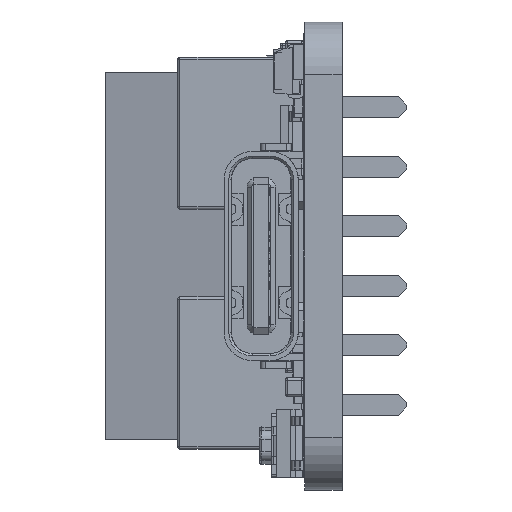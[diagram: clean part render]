
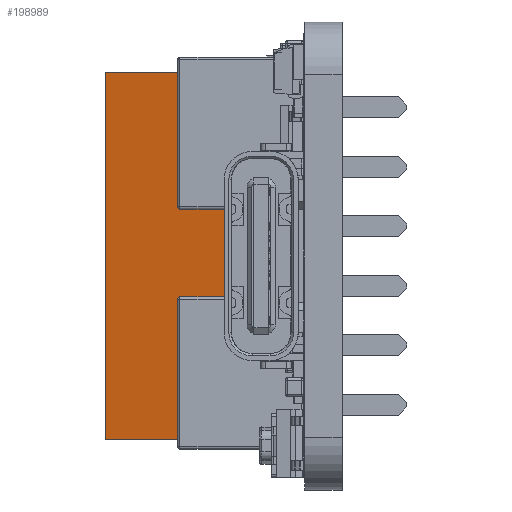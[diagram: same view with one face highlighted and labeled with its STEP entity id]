
A CAD part, left-side view. The second image highlights one B-rep face of the part: STEP entity #198989.
In plain terms, the highlighted planar face has unit normal (-0.977, 0.213, 0) as drawn and (0.977, 0.213, 0) by its records, which use the part's own axes.
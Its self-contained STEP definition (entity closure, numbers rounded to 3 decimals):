
#30223 = AXIS2_PLACEMENT_3D ( 'NONE', #104433, #104370, #104364 ) ;
#34016 = FACE_OUTER_BOUND ( 'NONE', #212586, .T. ) ;
#63438 = EDGE_CURVE ( 'NONE', #162132, #162088, #79973, .T. ) ;
#63502 = EDGE_CURVE ( 'NONE', #162089, #162088, #80064, .T. ) ;
#63543 = EDGE_CURVE ( 'NONE', #162104, #162089, #80057, .T. ) ;
#63582 = EDGE_CURVE ( 'NONE', #162132, #162104, #80082, .T. ) ;
#74562 = CARTESIAN_POINT ( 'NONE',  ( 1.9, 8.5, 5.08 ) ) ;
#74621 = DIRECTION ( 'NONE',  ( 0., 0., 1. ) ) ;
#74695 = CARTESIAN_POINT ( 'NONE',  ( 3.1, 3., 7.85 ) ) ;
#74762 = DIRECTION ( 'NONE',  ( -0.213, 0.977, 0. ) ) ;
#74860 = CARTESIAN_POINT ( 'NONE',  ( 3.1, 3., 5.08 ) ) ;
#74937 = DIRECTION ( 'NONE',  ( 0., 0., 1. ) ) ;
#75150 = DIRECTION ( 'NONE',  ( 0.213, -0.977, 0. ) ) ;
#75172 = CARTESIAN_POINT ( 'NONE',  ( 1.9, 8.5, -7.85 ) ) ;
#79973 = LINE ( 'NONE', #74562, #79978 ) ;
#79978 = VECTOR ( 'NONE', #74621, 1000. ) ;
#80053 = VECTOR ( 'NONE', #74762, 1000. ) ;
#80057 = LINE ( 'NONE', #74860, #80058 ) ;
#80058 = VECTOR ( 'NONE', #74937, 1000. ) ;
#80064 = LINE ( 'NONE', #74695, #80053 ) ;
#80082 = LINE ( 'NONE', #75172, #80100 ) ;
#80100 = VECTOR ( 'NONE', #75150, 1000. ) ;
#104364 = DIRECTION ( 'NONE',  ( -0.213, 0.977, 0. ) ) ;
#104370 = DIRECTION ( 'NONE',  ( 0.977, 0.213, 0. ) ) ;
#104433 = CARTESIAN_POINT ( 'NONE',  ( 3.1, 3., 5.08 ) ) ;
#104441 = PLANE ( 'NONE',  #30223 ) ;
#126383 = ORIENTED_EDGE ( 'NONE', *, *, #63543, .F. ) ;
#126394 = ORIENTED_EDGE ( 'NONE', *, *, #63438, .T. ) ;
#126422 = ORIENTED_EDGE ( 'NONE', *, *, #63502, .F. ) ;
#126610 = ORIENTED_EDGE ( 'NONE', *, *, #63582, .F. ) ;
#162088 = VERTEX_POINT ( 'NONE', #210531 ) ;
#162089 = VERTEX_POINT ( 'NONE', #210536 ) ;
#162104 = VERTEX_POINT ( 'NONE', #210563 ) ;
#162132 = VERTEX_POINT ( 'NONE', #210580 ) ;
#198989 = ADVANCED_FACE ( 'NONE', ( #34016 ), #104441, .T. ) ;
#210531 = CARTESIAN_POINT ( 'NONE',  ( 1.9, 8.5, 7.85 ) ) ;
#210536 = CARTESIAN_POINT ( 'NONE',  ( 3.1, 3., 7.85 ) ) ;
#210563 = CARTESIAN_POINT ( 'NONE',  ( 3.1, 3., -7.85 ) ) ;
#210580 = CARTESIAN_POINT ( 'NONE',  ( 1.9, 8.5, -7.85 ) ) ;
#212586 = EDGE_LOOP ( 'NONE', ( #126394, #126422, #126383, #126610 ) ) ;
